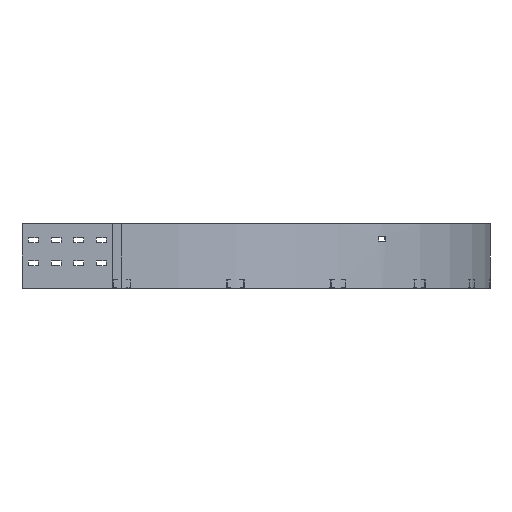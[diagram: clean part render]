
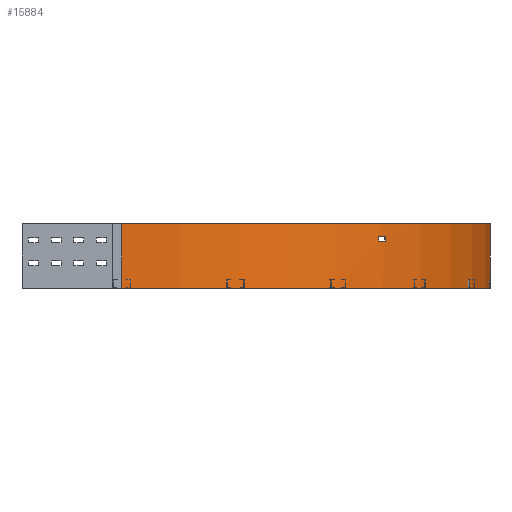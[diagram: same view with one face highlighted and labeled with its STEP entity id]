
A CAD part, front view. The second image highlights one B-rep face of the part: STEP entity #15884.
In plain terms, the highlighted cylindrical face has radius 811 mm (diameter 1622 mm), a partial arc.
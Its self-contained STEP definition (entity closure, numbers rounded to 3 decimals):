
#395=FACE_BOUND('',#2260,.T.);
#715=CYLINDRICAL_SURFACE('',#16727,811.);
#748=CIRCLE('',#16719,811.);
#753=CIRCLE('',#16726,811.);
#754=CIRCLE('',#16728,811.);
#755=CIRCLE('',#16729,811.);
#1442=FACE_OUTER_BOUND('',#2259,.T.);
#2259=EDGE_LOOP('',(#10736,#10737,#10738,#10739));
#2260=EDGE_LOOP('',(#10740,#10741,#10742,#10743));
#3395=LINE('',#22045,#5071);
#3401=LINE('',#22069,#5077);
#3402=LINE('',#22074,#5078);
#3403=LINE('',#22077,#5079);
#5071=VECTOR('',#17962,304.8);
#5077=VECTOR('',#17988,304.8);
#5078=VECTOR('',#17991,304.8);
#5079=VECTOR('',#17994,304.8);
#6744=VERTEX_POINT('',#22038);
#6747=VERTEX_POINT('',#22043);
#6748=VERTEX_POINT('',#22047);
#6755=VERTEX_POINT('',#22065);
#6756=VERTEX_POINT('',#22070);
#6757=VERTEX_POINT('',#22071);
#6758=VERTEX_POINT('',#22073);
#6759=VERTEX_POINT('',#22075);
#8331=EDGE_CURVE('',#6747,#6744,#3395,.T.);
#8332=EDGE_CURVE('',#6744,#6748,#748,.T.);
#8342=EDGE_CURVE('',#6755,#6747,#753,.T.);
#8343=EDGE_CURVE('',#6748,#6755,#3401,.T.);
#8344=EDGE_CURVE('',#6756,#6757,#754,.T.);
#8345=EDGE_CURVE('',#6757,#6758,#3402,.T.);
#8346=EDGE_CURVE('',#6758,#6759,#755,.T.);
#8347=EDGE_CURVE('',#6759,#6756,#3403,.T.);
#10736=ORIENTED_EDGE('',*,*,#8331,.F.);
#10737=ORIENTED_EDGE('',*,*,#8342,.F.);
#10738=ORIENTED_EDGE('',*,*,#8343,.F.);
#10739=ORIENTED_EDGE('',*,*,#8332,.F.);
#10740=ORIENTED_EDGE('',*,*,#8344,.T.);
#10741=ORIENTED_EDGE('',*,*,#8345,.T.);
#10742=ORIENTED_EDGE('',*,*,#8346,.T.);
#10743=ORIENTED_EDGE('',*,*,#8347,.T.);
#15884=ADVANCED_FACE('',(#1442,#395),#715,.T.);
#16719=AXIS2_PLACEMENT_3D('',#22048,#17965,#17966);
#16726=AXIS2_PLACEMENT_3D('',#22067,#17984,#17985);
#16727=AXIS2_PLACEMENT_3D('',#22068,#17986,#17987);
#16728=AXIS2_PLACEMENT_3D('',#22072,#17989,#17990);
#16729=AXIS2_PLACEMENT_3D('',#22076,#17992,#17993);
#17962=DIRECTION('',(0.,0.,1.));
#17965=DIRECTION('center_axis',(0.,0.,1.));
#17966=DIRECTION('ref_axis',(0.,-1.,0.));
#17984=DIRECTION('center_axis',(0.,0.,-1.));
#17985=DIRECTION('ref_axis',(0.,-1.,0.));
#17986=DIRECTION('center_axis',(0.,0.,1.));
#17987=DIRECTION('ref_axis',(0.,-1.,0.));
#17988=DIRECTION('',(0.,0.,-1.));
#17989=DIRECTION('center_axis',(0.,0.,1.));
#17990=DIRECTION('ref_axis',(0.,-1.,0.));
#17991=DIRECTION('',(0.,0.,-1.));
#17992=DIRECTION('center_axis',(0.,0.,-1.));
#17993=DIRECTION('ref_axis',(0.,-1.,0.));
#17994=DIRECTION('',(0.,0.,1.));
#22038=CARTESIAN_POINT('',(-555.5,-255.5,71.));
#22043=CARTESIAN_POINT('',(-555.5,-255.5,-71.));
#22045=CARTESIAN_POINT('',(-555.5,-255.5,-71.));
#22047=CARTESIAN_POINT('',(255.5,555.5,71.));
#22048=CARTESIAN_POINT('Origin',(-555.5,555.5,71.));
#22065=CARTESIAN_POINT('',(255.5,555.5,-71.));
#22067=CARTESIAN_POINT('Origin',(-555.5,555.5,-71.));
#22068=CARTESIAN_POINT('Origin',(-555.5,555.5,0.));
#22069=CARTESIAN_POINT('',(255.5,555.5,71.));
#22070=CARTESIAN_POINT('',(10.211,-25.613,44.));
#22071=CARTESIAN_POINT('',(25.765,-10.054,44.));
#22072=CARTESIAN_POINT('Origin',(-555.5,555.5,44.));
#22073=CARTESIAN_POINT('',(25.765,-10.054,33.));
#22074=CARTESIAN_POINT('',(25.765,-10.054,44.));
#22075=CARTESIAN_POINT('',(10.211,-25.613,33.));
#22076=CARTESIAN_POINT('Origin',(-555.5,555.5,33.));
#22077=CARTESIAN_POINT('',(10.211,-25.613,33.));
